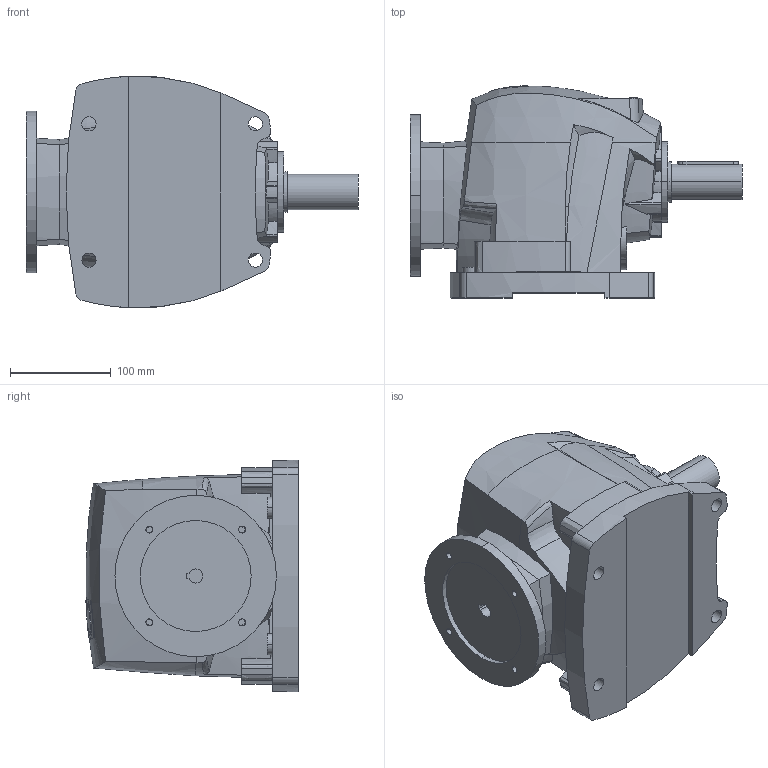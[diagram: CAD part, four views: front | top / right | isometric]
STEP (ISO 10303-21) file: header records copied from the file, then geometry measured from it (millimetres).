
FILE_DESCRIPTION((''),'2;1');
FILE_NAME('R30_SW_PAM71_D2','2013-11-20T',('Luca'),(''),'PRO/ENGINEER BY PARAMETRIC TECHNOLOGY CORPORATION, 2008230','PRO/ENGINEER BY PARAMETRIC TECHNOLOGY CORPORATION, 2008230','');
FILE_SCHEMA(('CONFIG_CONTROL_DESIGN'));
Length unit declared in the file: millimetre
Products named in the file (1): R30_SW_PAM71_D2
Bounding box: 329 x 210.27 x 229.21 mm (x, y, z)
Volume: 7053153.9 mm3; surface area: 327521.7 mm2
Topology: 1 solids, 5 shells, 417 faces, 1139 edges, 757 vertices
Faces by surface type: plane 158, cylinder 128, bspline 82, extrusion 23, cone 22, torus 4
Entity records: 17313 total; most frequent: CARTESIAN_POINT 7371, ORIENTED_EDGE 2274, DIRECTION 1686, EDGE_CURVE 1137, VERTEX_POINT 757, AXIS2_PLACEMENT_3D 577, VECTOR 532, LINE 509
